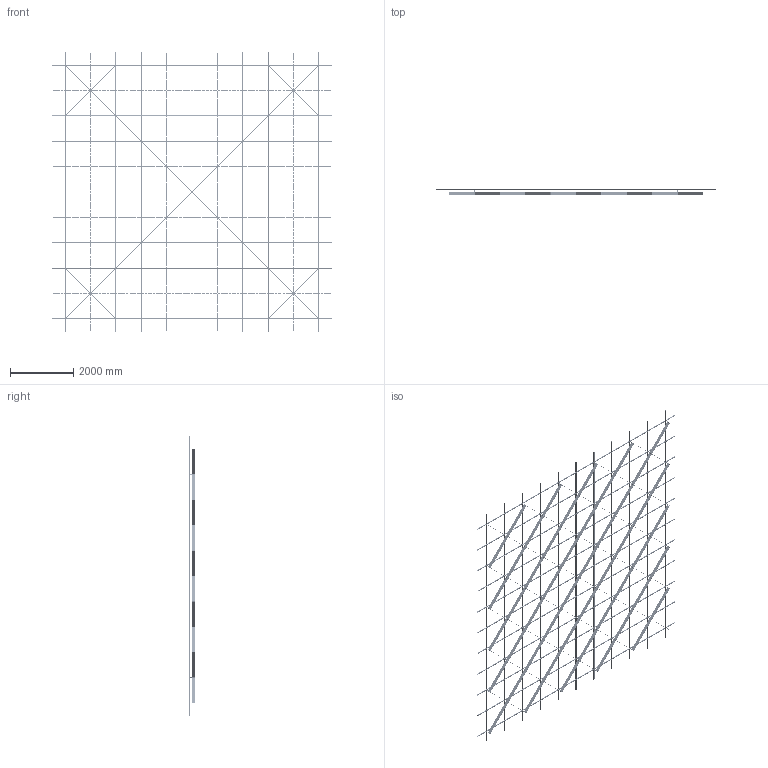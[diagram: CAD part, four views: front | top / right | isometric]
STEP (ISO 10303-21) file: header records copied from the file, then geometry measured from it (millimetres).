
FILE_DESCRIPTION (( 'STEP AP203' ), '1' );
FILE_NAME ('1 ìèäè ñ ïñ.step', '2025-11-26T11:22:37', ( '' ), ( '' ), 'SwSTEP 2.0', 'SolidWorks 2020', '' );
FILE_SCHEMA (( 'CONFIG_CONTROL_DESIGN' ));
Length unit declared in the file: millimetre
Products named in the file (5): 1 ìèäè ñ ïñ; SS.SEMA.2400 - Ñèìà-ïðîôèëü; Ñèñòåìà â çîíå 8000õ8000; SS.SEMA.2400 - Ñèìà-ïðîôèëü — îáðåçàí 1600; Var1
Assembly tree (90 placements, depth 3):
  1 ìèäè ñ ïñ
    Ñèñòåìà â çîíå 8000õ8000
      SS.SEMA.2400 - Ñèìà-ïðîôèëü  x66
      SS.SEMA.2400 - Ñèìà-ïðîôèëü — îáðåçàí 1600  x22
    Var1
Bounding box: 8800 x 205 x 8800 mm (x, y, z)
Volume: 106324239 mm3; surface area: 51798275.6 mm2
Topology: 432 solids, 432 shells, 18076 faces, 50228 edges, 33016 vertices
Faces by surface type: cylinder 12346, plane 5730
Entity records: 51455 total; most frequent: CARTESIAN_POINT 11378, DIRECTION 7458, ORIENTED_EDGE 7304, EDGE_CURVE 3652, AXIS2_PLACEMENT_3D 3480, VERTEX_POINT 2424, EDGE_LOOP 2082, FACE_OUTER_BOUND 1920
